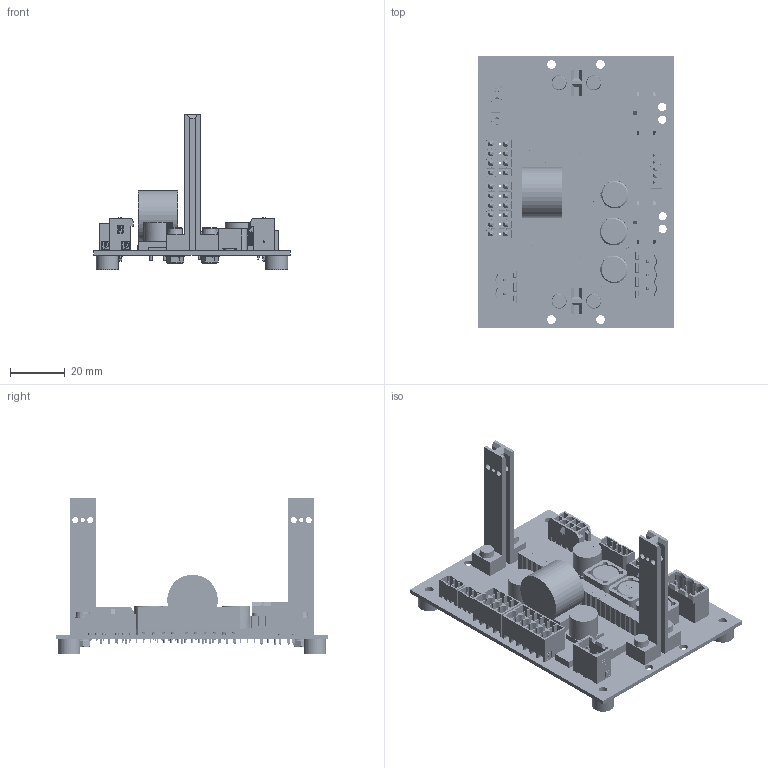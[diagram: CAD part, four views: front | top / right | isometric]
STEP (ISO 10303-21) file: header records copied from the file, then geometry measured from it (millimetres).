
FILE_DESCRIPTION(/* description */ (''),/* implementation_level */ '2;1');
FILE_NAME(/* name */ '6500.01715_MB1_MC5004_STO_Vertival_Schiene.stp',/* time_stamp */ '2018-09-06T12:30:31+02:00',/* author */ ('DR. FRITZ FAULHABER GmbH & Co. KG'),/* organization */ ('DR. FRITZ FAULHABER GmbH & Co. KG'),/* preprocessor_version */ 'ST-DEVELOPER v16.7',/* originating_system */ 'SIEMENS PLM Software NX 12.0',/* authorisation */ '');
FILE_SCHEMA (('AUTOMOTIVE_DESIGN { 1 0 10303 214 3 1 1 1 }'));
Products named in the file (1): Alle_Controller_Platinen
Bounding box: 72 x 100 x 56.92 mm (x, y, z)
Volume: 36794.9 mm3; surface area: 41335.4 mm2
Topology: 1 solids, 5 shells, 5530 faces, 15168 edges, 9904 vertices
Faces by surface type: plane 4319, cylinder 894, cone 246, extrusion 33, torus 20, bspline 18
Full cylindrical faces by diameter (mm): 0.434 x2, 0.457 x2, 0.5 x3, 0.53 x12, 0.6 x100, 0.8 x14, 0.86 x4, 0.9 x46, 1 x4, 1.1 x4, 1.2 x61, 1.3 x4, 1.4 x25, 1.55 x2, 2.2 x8, 2.594 x4, 2.8 x3, 3 x8, 3.1 x4, 3.2 x12, 5.75 x3, 7 x4, 8.179 x4, 10 x3, 10.5 x1
Entity records: 175852 total; most frequent: CARTESIAN_POINT 36747, ORIENTED_EDGE 28880, DIRECTION 27501, EDGE_CURVE 14440, VECTOR 11801, LINE 11768, VERTEX_POINT 9687, AXIS2_PLACEMENT_3D 7850
